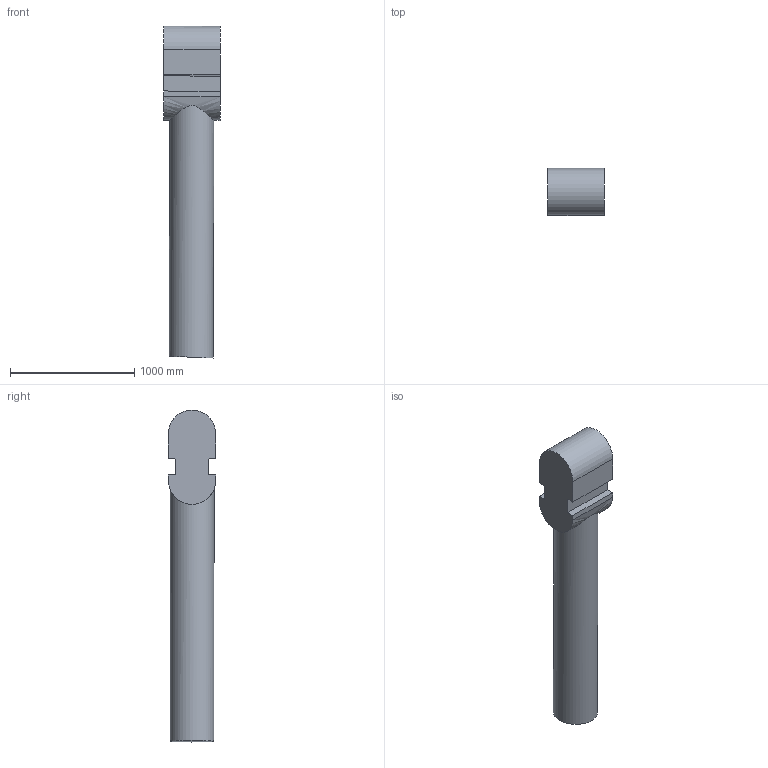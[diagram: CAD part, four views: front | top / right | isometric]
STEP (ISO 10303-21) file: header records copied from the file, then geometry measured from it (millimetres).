
FILE_DESCRIPTION(/* description */ (''),/* implementation_level */ '2;1');
FILE_NAME(/* name */ '14x22_mast_in_tunnel_0deg_mod.stp',/* time_stamp */ '2022-08-22T14:11:59-04:00',/* author */ (''),/* organization */ (''),/* preprocessor_version */ 'ST-DEVELOPER v16',/* originating_system */ 'SIEMENS PLM Software NX 10.0',/* authorisation */ '');
FILE_SCHEMA (('AP203_CONFIGURATION_CONTROLLED_3D_DESIGN_OF_MECHANICAL_PARTS_AND_ASSEMBLIES_MIM_LF { 1 0 10303 403 2 1 2}'));
Length unit declared in the file: millimetre
Products named in the file (1): sbry4E4082DFvl18
Bounding box: 458.24 x 380.64 x 2674.21 mm (x, y, z)
Volume: 300885113.2 mm3; surface area: 3640704.2 mm2
Topology: 1 solids, 1 shells, 18 faces, 46 edges, 31 vertices
Faces by surface type: plane 12, cylinder 3, bspline 3
Full cylindrical faces by diameter (mm): 354.33 x1
Entity records: 888 total; most frequent: CARTESIAN_POINT 372, ORIENTED_EDGE 88, DIRECTION 82, EDGE_CURVE 44, LINE 34, VECTOR 34, VERTEX_POINT 30, AXIS2_PLACEMENT_3D 24
